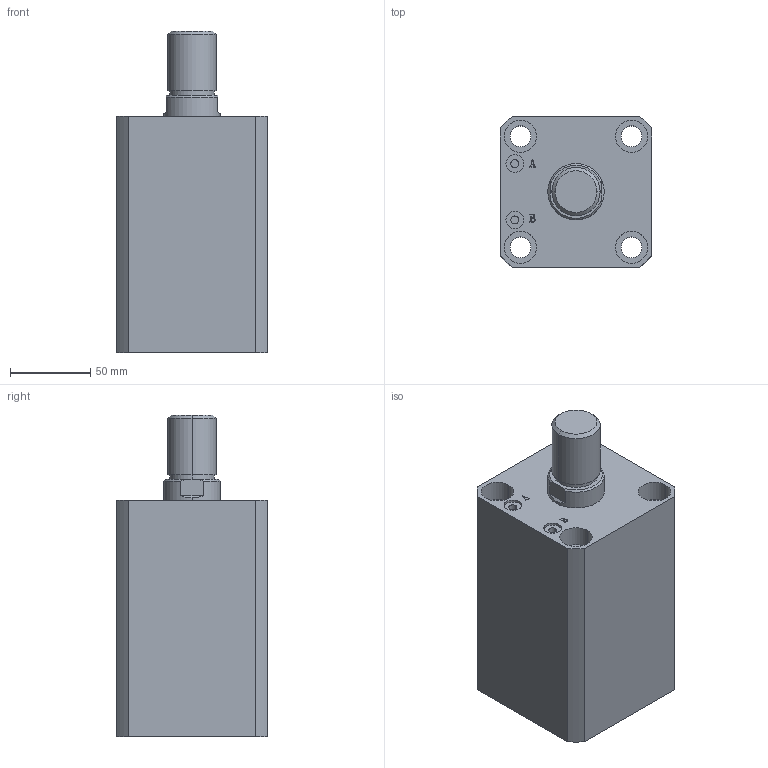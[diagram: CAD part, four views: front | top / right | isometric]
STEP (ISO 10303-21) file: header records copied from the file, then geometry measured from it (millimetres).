
FILE_DESCRIPTION (( 'STEP AP203' ), '1' );
FILE_NAME ('HTB-SDMA63-80W.STEP', '2019-10-08T01:14:24', ( '微软用户' ), ( '微软中国' ), 'SwSTEP 2.0', 'SolidWorks 2012', '' );
FILE_SCHEMA (( 'CONFIG_CONTROL_DESIGN' ));
Length unit declared in the file: millimetre
Products named in the file (3): HTB-SDMA63-80W; HTB-SDMA63-80W活塞杆; HTB-SDMA63-80掛极
Assembly tree (2 placements, depth 2):
  HTB-SDMA63-80W
    HTB-SDMA63-80掛极
    HTB-SDMA63-80W活塞杆
Bounding box: 94 x 94 x 200 mm (x, y, z)
Volume: 1053499.3 mm3; surface area: 150751.3 mm2
Topology: 2 solids, 2 shells, 141 faces, 337 edges, 222 vertices
Faces by surface type: plane 67, cylinder 48, bspline 16, torus 6, cone 4
Entity records: 5176 total; most frequent: CARTESIAN_POINT 1593, ORIENTED_EDGE 674, DIRECTION 669, EDGE_CURVE 337, AXIS2_PLACEMENT_3D 242, VERTEX_POINT 222, LINE 185, VECTOR 185
